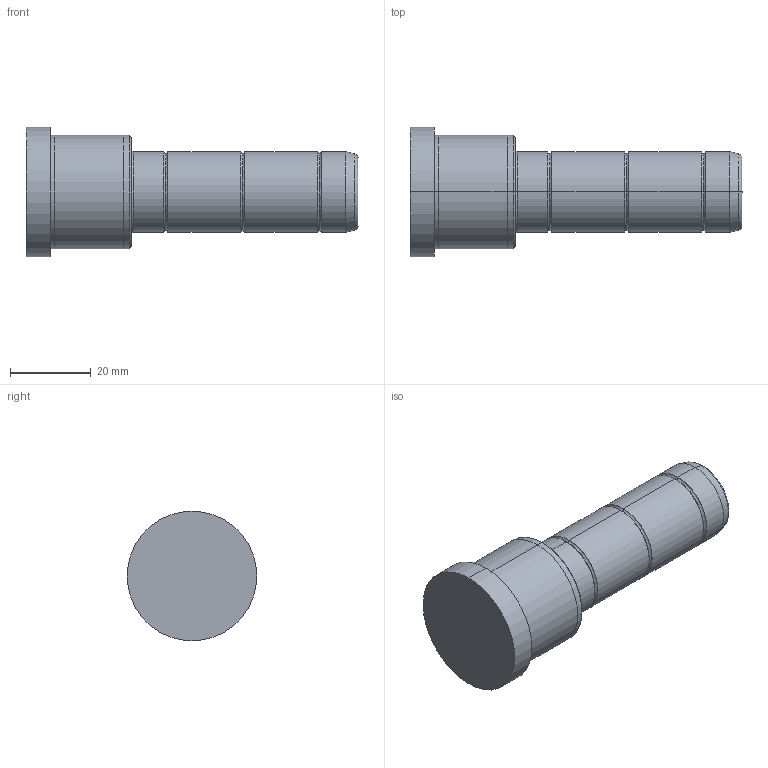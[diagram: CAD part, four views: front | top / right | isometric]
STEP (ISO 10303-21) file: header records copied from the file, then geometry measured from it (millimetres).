
FILE_DESCRIPTION( ( 'STEP AP203' ), '1' );
FILE_NAME( 'C:/Projects/D02 - 20x26x56.step', '2003-01-04T13:44:26', ( ' ' ), ( ' ' ), 'XStep 1.0', ' ', ' ' );
FILE_SCHEMA( ( 'CONFIG_CONTROL_DESIGN' ) );
Length unit declared in the file: metre
Products named in the file (1): 1
Bounding box: 82 x 32 x 32 mm (x, y, z)
Volume: 34588.3 mm3; surface area: 7488.1 mm2
Topology: 1 solids, 1 shells, 42 faces, 82 edges, 46 vertices
Faces by surface type: bspline 22, revolution 20
Entity records: 1325 total; most frequent: CARTESIAN_POINT 517, ORIENTED_EDGE 164, DIRECTION 134, EDGE_CURVE 82, AXIS2_PLACEMENT_3D 47, EDGE_LOOP 46, VERTEX_POINT 46, CIRCLE 46
